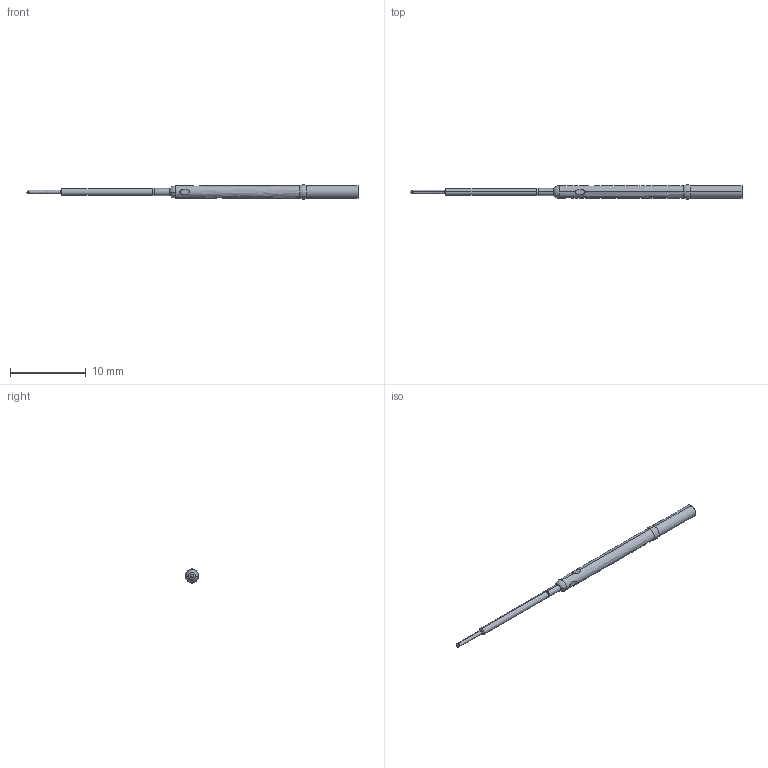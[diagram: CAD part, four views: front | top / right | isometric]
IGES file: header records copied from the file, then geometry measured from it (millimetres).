
Start section: SolidWorks IGES file using analytic representation for surfaces
Global section: file name: Z:\probe solid model mockups\Solidworks models\DER-100\DER-0100T.IGS; native system: SolidWorks 2006 by SolidWorks Corporation; preprocessor: SolidWorks 2006 by SolidWorks Corporation; author: tsakatani; date: 071218.090422; units: inch
Bounding box: 43.79 x 1.86 x 1.88 mm (x, y, z)
Surface area: 291.5 mm2 (no closed solid volume)
Topology: 0 solids, 0 shells, 39 faces, 410 edges, 410 vertices
Faces by surface type: revolution 29, bspline 10
